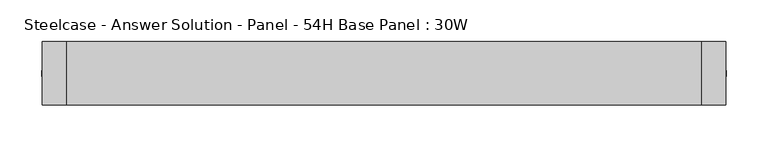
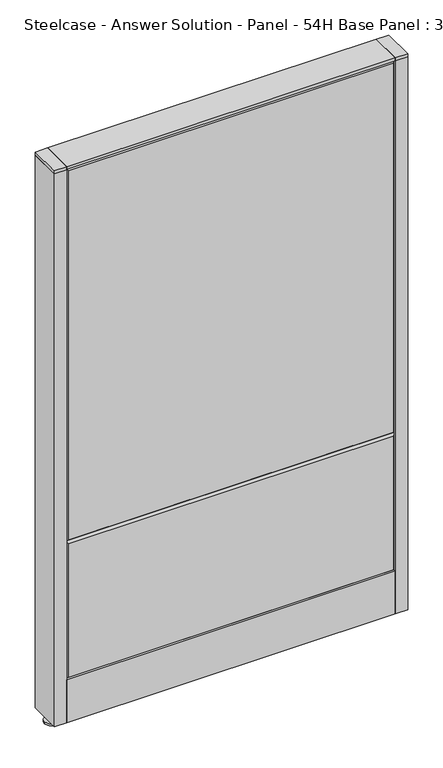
"""IFC4 building model written with IfcOpenShell, lengths in millimetres: furniture geometry, Steelcase - Answer Solution - Panel - 54H Base Panel : 30W."""

from ifc_helpers import new_model, si_unit, point, frame, frame_2d, origin, place, context, project, spatial, polyline, circle_curve, trimmed, segment, composite_curve, outline, extrude, faceted_brep, source, transform, mapped, element, save


def steelcase_answer_solution_panel_54h_base_panel_30w_291422c4(model_context):
    return source(origin(), model_context, "Body", "SolidModel", [
        extrude(outline(composite_curve([segment(trimmed(circle_curve(frame_2d((395.224, 0.0320214)), 5.08), [point((400.304, 0.0320214))], [point((390.144, 0.0320214))], False, "CARTESIAN"), True, "CONTINUOUS"), segment(trimmed(circle_curve(frame_2d((395.224, 0.0320214)), 5.08), [point((390.144, 0.0320214))], [point((400.304, 0.0320214))], False, "CARTESIAN"), True, "CONTINUOUS")], self_intersect=False)), frame((0.0, 0.0, 5.0799671), z_axis=(0.0, 0.0, 1.0), x_axis=(1.0, 0.0, 0.0)), (0.0, 0.0, 1.0), 10.414),
        extrude(outline(composite_curve([segment(trimmed(circle_curve(frame_2d((395.224, 0.0320214)), 15.24), [point((410.464, 0.0320214))], [point((379.984, 0.0320214))], False, "CARTESIAN"), True, "CONTINUOUS"), segment(trimmed(circle_curve(frame_2d((395.224, 0.0320214)), 15.24), [point((379.984, 0.0320214))], [point((410.464, 0.0320214))], False, "CARTESIAN"), True, "CONTINUOUS")], self_intersect=False)), frame((0.0, 0.0, -3.29e-05), z_axis=(0.0, 0.0, 1.0), x_axis=(1.0, 0.0, 0.0)), (0.0, 0.0, 1.0), 5.08),
        extrude(outline(polyline([(409.575, 38.1320408), (409.575, -38.0679592), (381.0, -38.0679592), (381.0, 38.1320408), (409.575, 38.1320408)])), frame((0.0, 0.0, 1370.6348), z_axis=(0.0, 0.0, 1.0), x_axis=(1.0, 0.0, 0.0)), (0.0, 0.0, 1.0), 7.3151671),
        extrude(outline(polyline([(409.575, 38.1320408), (409.575, -38.0679592), (381.0, -38.0679592), (381.0, 38.1320408), (409.575, 38.1320408)])), frame((0.0, 0.0, 15.4939671), z_axis=(0.0, 0.0, 1.0), x_axis=(1.0, 0.0, 0.0)), (0.0, 0.0, 1.0), 1355.1408329),
        extrude(outline(composite_curve([segment(trimmed(circle_curve(frame_2d((-395.224, 0.0320214)), 5.08), [point((-400.304, 0.0320214))], [point((-390.144, 0.0320214))], False, "CARTESIAN"), True, "CONTINUOUS"), segment(trimmed(circle_curve(frame_2d((-395.224, 0.0320214)), 5.08), [point((-390.144, 0.0320214))], [point((-400.304, 0.0320214))], False, "CARTESIAN"), True, "CONTINUOUS")], self_intersect=False)), frame((0.0, 0.0, 5.0799671), z_axis=(0.0, 0.0, 1.0), x_axis=(1.0, 0.0, 0.0)), (0.0, 0.0, 1.0), 10.414),
        extrude(outline(composite_curve([segment(trimmed(circle_curve(frame_2d((-395.224, 0.0320214)), 15.24), [point((-410.464, 0.0320214))], [point((-379.984, 0.0320214))], False, "CARTESIAN"), True, "CONTINUOUS"), segment(trimmed(circle_curve(frame_2d((-395.224, 0.0320214)), 15.24), [point((-379.984, 0.0320214))], [point((-410.464, 0.0320214))], False, "CARTESIAN"), True, "CONTINUOUS")], self_intersect=False)), frame((0.0, 0.0, -3.29e-05), z_axis=(0.0, 0.0, 1.0), x_axis=(1.0, 0.0, 0.0)), (0.0, 0.0, 1.0), 5.08),
        extrude(outline(polyline([(-409.575, 38.1320408), (-381.0, 38.1320408), (-381.0, -38.0679592), (-409.575, -38.0679592), (-409.575, 38.1320408)])), frame((0.0, 0.0, 1370.6348), z_axis=(0.0, 0.0, 1.0), x_axis=(1.0, 0.0, 0.0)), (0.0, 0.0, 1.0), 7.3151671),
        extrude(outline(polyline([(-409.575, 38.1320408), (-381.0, 38.1320408), (-381.0, -38.0679592), (-409.575, -38.0679592), (-409.575, 38.1320408)])), frame((0.0, 0.0, 15.4939671), z_axis=(0.0, 0.0, 1.0), x_axis=(1.0, 0.0, 0.0)), (0.0, 0.0, 1.0), 1355.1408329),
        faceted_brep([(-376.174, 38.1635011, 1366.774), (376.174, 38.1635011, 1366.774), (376.174, 38.1635011, 462.026), (-376.174, 38.1635011, 462.026), (-381.0, 33.3375011, 1371.6), (-381.0, 33.3375011, 457.2), (381.0, 33.3375011, 457.2), (381.0, 33.3375011, 1371.6)], [[[0, 1, 2, 3]], [[4, 5, 6, 7]], [[4, 7, 1, 0]], [[7, 6, 2, 1]], [[6, 5, 3, 2]], [[5, 4, 0, 3]]]),
        faceted_brep([(-376.174, 38.1635011, 452.374), (376.174, 38.1635011, 452.374), (376.174, 38.1635011, 125.476), (-376.174, 38.1635011, 125.476), (-381.0, 33.3375011, 457.2), (-381.0, 33.3375011, 120.65), (381.0, 33.3375011, 120.65), (381.0, 33.3375011, 457.2)], [[[0, 1, 2, 3]], [[4, 5, 6, 7]], [[4, 7, 1, 0]], [[7, 6, 2, 1]], [[6, 5, 3, 2]], [[5, 4, 0, 3]]]),
        faceted_brep([(376.174, -38.1635011, 1366.774), (-376.174, -38.1635011, 1366.774), (-376.174, -38.1635011, 462.026), (376.174, -38.1635011, 462.026), (381.0, -33.3375011, 1371.6), (381.0, -33.3375011, 457.2), (-381.0, -33.3375011, 457.2), (-381.0, -33.3375011, 1371.6)], [[[0, 1, 2, 3]], [[4, 5, 6, 7]], [[4, 7, 1, 0]], [[7, 6, 2, 1]], [[6, 5, 3, 2]], [[5, 4, 0, 3]]]),
        faceted_brep([(376.174, -38.1635011, 452.374), (-376.174, -38.1635011, 452.374), (-376.174, -38.1635011, 125.476), (376.174, -38.1635011, 125.476), (381.0, -33.3375011, 457.2), (381.0, -33.3375011, 120.65), (-381.0, -33.3375011, 120.65), (-381.0, -33.3375011, 457.2)], [[[0, 1, 2, 3]], [[4, 5, 6, 7]], [[4, 7, 1, 0]], [[7, 6, 2, 1]], [[6, 5, 3, 2]], [[5, 4, 0, 3]]]),
        extrude(outline(polyline([(381.0, 38.1000194), (381.0, -38.1000194), (-381.0, -38.1000194), (-381.0, 38.1000194), (381.0, 38.1000194)])), frame((0.0, 0.0, 1371.6), z_axis=(0.0, 0.0, 1.0), x_axis=(1.0, 0.0, 0.0)), (0.0, 0.0, 1.0), 6.35),
        extrude(outline(polyline([(25.4000011, 119.8575157), (25.4000011, 120.65), (38.1000194, 120.65), (38.1000194, 15.494), (37.3075215, 15.494), (37.3075215, 119.8575157), (25.4000011, 119.8575157)])), frame((-381.0, 0.0, 0.0), z_axis=(1.0, 0.0, 0.0), x_axis=(0.0, 1.0, 0.0)), (0.0, 0.0, 1.0), 762.0),
        extrude(outline(polyline([(-25.4000011, 119.8575157), (-37.3075215, 119.8575157), (-37.3075215, 15.494), (-38.1000194, 15.494), (-38.1000194, 120.65), (-25.4000011, 120.65), (-25.4000011, 119.8575157)])), frame((-381.0, 0.0, 0.0), z_axis=(1.0, 0.0, 0.0), x_axis=(0.0, 1.0, 0.0)), (0.0, 0.0, 1.0), 762.0),
    ])


if __name__ == "__main__":
    model = new_model("IFC4")
    model_context = context("Model", 3, world=origin())
    ifc_project = project(units=[si_unit("LENGTHUNIT", "METRE", prefix="MILLI")], contexts=[model_context])
    site = spatial("IfcSite", under=ifc_project)
    building = spatial("IfcBuilding", under=site)
    placement = place(None, origin())
    steelcase_answer_solution_panel_54h_base_panel_30w_shape = steelcase_answer_solution_panel_54h_base_panel_30w_291422c4(model_context)
    element("IfcFurniture", 1, ObjectType="Steelcase - Answer Solution - Panel - 54H Base Panel : 30W", at=placement, inside=building, context=model_context, shape_type="MappedRepresentation", body=[
        mapped(steelcase_answer_solution_panel_54h_base_panel_30w_shape, transform((0.0, 0.0, 0.0), x_axis=(1.0, 0.0, 0.0), y_axis=(0.0, 1.0, 0.0), z_axis=(0.0, 0.0, 1.0))),
    ])
    save(model, "model.ifc")
